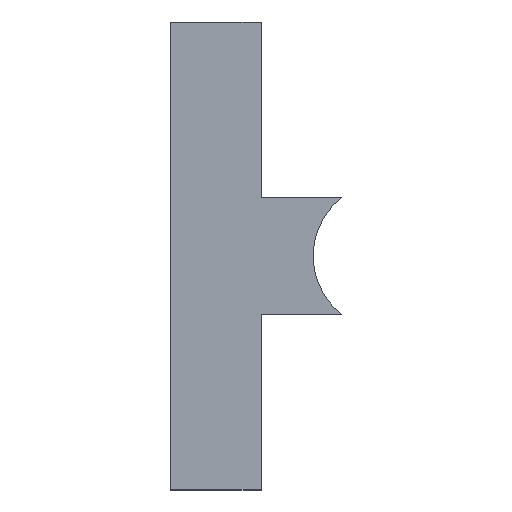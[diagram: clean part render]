
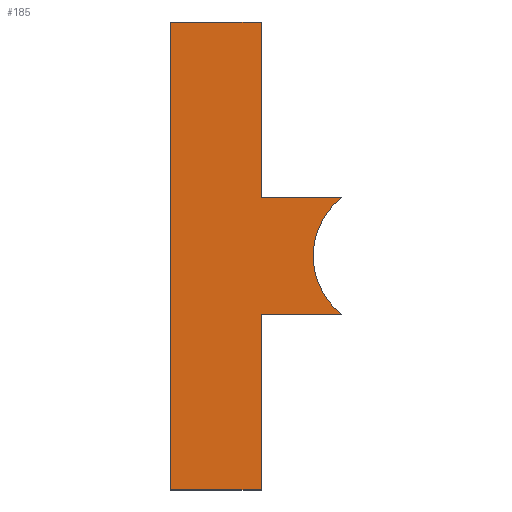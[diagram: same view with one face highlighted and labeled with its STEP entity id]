
A CAD part, top view. The second image highlights one B-rep face of the part: STEP entity #185.
In plain terms, the highlighted planar face has unit normal (0, 0, 1).
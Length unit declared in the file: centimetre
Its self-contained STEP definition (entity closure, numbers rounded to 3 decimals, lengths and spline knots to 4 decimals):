
#20=PLANE('',#210);
#31=LINE('',#286,#53);
#33=LINE('',#290,#55);
#35=LINE('',#294,#57);
#36=LINE('',#296,#58);
#38=LINE('',#300,#60);
#40=LINE('',#304,#62);
#42=LINE('',#308,#64);
#53=VECTOR('',#233,100.);
#55=VECTOR('',#237,100.);
#57=VECTOR('',#241,100.);
#58=VECTOR('',#244,100.);
#60=VECTOR('',#248,100.);
#62=VECTOR('',#252,100.);
#64=VECTOR('',#256,100.);
#105=ORIENTED_EDGE('',*,*,#113,.T.);
#106=ORIENTED_EDGE('',*,*,#129,.T.);
#107=ORIENTED_EDGE('',*,*,#127,.T.);
#108=ORIENTED_EDGE('',*,*,#125,.T.);
#109=ORIENTED_EDGE('',*,*,#136,.T.);
#110=ORIENTED_EDGE('',*,*,#134,.T.);
#111=ORIENTED_EDGE('',*,*,#132,.T.);
#112=ORIENTED_EDGE('',*,*,#130,.T.);
#113=EDGE_CURVE('',#137,#138,#153,.T.);
#125=EDGE_CURVE('',#148,#147,#31,.T.);
#127=EDGE_CURVE('',#149,#148,#33,.T.);
#129=EDGE_CURVE('',#138,#149,#35,.T.);
#130=EDGE_CURVE('',#150,#137,#36,.T.);
#132=EDGE_CURVE('',#151,#150,#38,.T.);
#134=EDGE_CURVE('',#152,#151,#40,.T.);
#136=EDGE_CURVE('',#147,#152,#42,.T.);
#137=VERTEX_POINT('',#262);
#138=VERTEX_POINT('',#263);
#147=VERTEX_POINT('',#285);
#148=VERTEX_POINT('',#287);
#149=VERTEX_POINT('',#291);
#150=VERTEX_POINT('',#297);
#151=VERTEX_POINT('',#301);
#152=VERTEX_POINT('',#305);
#153=CIRCLE('',#200,0.0285);
#164=EDGE_LOOP('',(#105,#106,#107,#108,#109,#110,#111,#112));
#174=FACE_BOUND('',#164,.T.);
#185=ADVANCED_FACE('',(#174),#20,.T.);
#200=AXIS2_PLACEMENT_3D('',#261,#215,#216);
#210=AXIS2_PLACEMENT_3D('',#309,#257,#258);
#215=DIRECTION('',(0.,0.,-1.));
#216=DIRECTION('',(0.614,0.789,0.));
#233=DIRECTION('',(-1.,0.,0.));
#237=DIRECTION('',(0.,1.,0.));
#241=DIRECTION('',(-1.,0.,0.));
#244=DIRECTION('',(1.,0.,0.));
#248=DIRECTION('',(0.,1.,0.));
#252=DIRECTION('',(1.,0.,0.));
#256=DIRECTION('',(0.,-1.,0.));
#257=DIRECTION('',(0.,0.,1.));
#258=DIRECTION('',(0.,-1.,0.));
#261=CARTESIAN_POINT('',(-0.0898,0.5408,0.1864));
#262=CARTESIAN_POINT('',(-0.1073,0.5183,0.1864));
#263=CARTESIAN_POINT('',(-0.1073,0.5633,0.1864));
#285=CARTESIAN_POINT('',(-0.1733,0.6308,0.1864));
#286=CARTESIAN_POINT('',(-0.1383,0.6308,0.1864));
#287=CARTESIAN_POINT('',(-0.1383,0.6308,0.1864));
#290=CARTESIAN_POINT('',(-0.1383,0.5633,0.1864));
#291=CARTESIAN_POINT('',(-0.1383,0.5633,0.1864));
#294=CARTESIAN_POINT('',(-0.1073,0.5633,0.1864));
#296=CARTESIAN_POINT('',(-0.1383,0.5183,0.1864));
#297=CARTESIAN_POINT('',(-0.1383,0.5183,0.1864));
#300=CARTESIAN_POINT('',(-0.1383,0.4508,0.1864));
#301=CARTESIAN_POINT('',(-0.1383,0.4508,0.1864));
#304=CARTESIAN_POINT('',(-0.1733,0.4508,0.1864));
#305=CARTESIAN_POINT('',(-0.1733,0.4508,0.1864));
#308=CARTESIAN_POINT('',(-0.1733,0.6308,0.1864));
#309=CARTESIAN_POINT('',(-0.1488,0.5408,0.1864));
